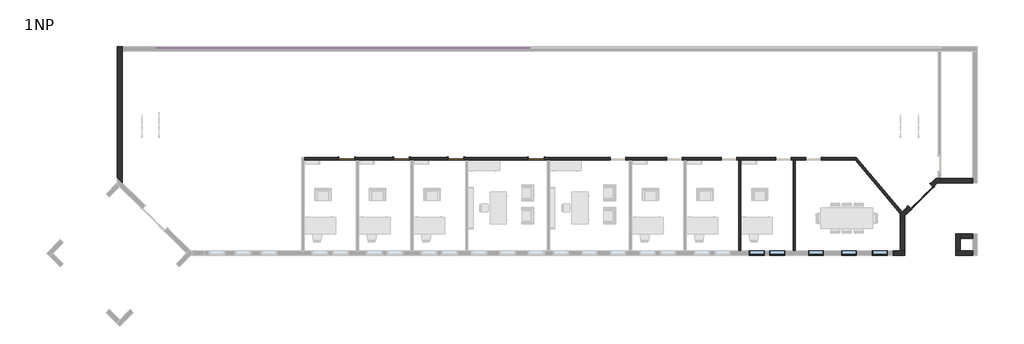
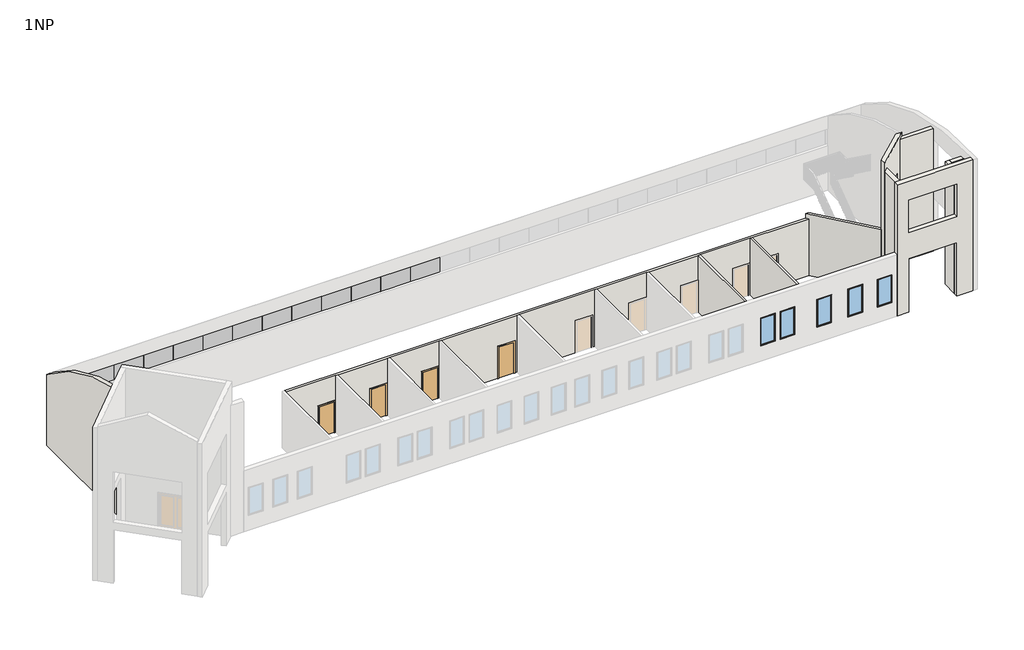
# One storey, part 2 of 3: 12 plates, 11 walls, 5 doors, 5 windows.
"""IFC4 building model written with IfcOpenShell, lengths in millimetres."""

from ifc_helpers import new_model, si_unit, frame, origin, origin_with_axes, place, context, project, spatial, polyline, circle_curve, ellipse_curve, outline, extrude, faceted_brep, transform, mapped, element, save
from ifc_brep_helpers import plane_surface, cylinder_surface, advanced_brep
from components import m_double_glass_1_1830_x_2134mm_3c2632e2, m_single_flush_0915_x_2032mm_1012e85d, system_panel_glazed_e7f7cd54, m_fixed_0915_x_1830mm_7ee91fd3

model = new_model("IFC4")

# Units and contexts
model_context = context("Model", 3, world=origin())
ifc_project = project(units=[si_unit("LENGTHUNIT", "METRE", prefix="MILLI")], contexts=[model_context])

# Site, building, storey
site = spatial("IfcSite", under=ifc_project)
building = spatial("IfcBuilding", under=site)
storey = spatial("IfcBuildingStorey", under=building, Name="1NP", Elevation=0.0)

# Doors
placement = place(None, origin())
m_double_glass_1_1830_x_2134mm_shape = m_double_glass_1_1830_x_2134mm_3c2632e2(model_context)
element("IfcDoor", 1, ObjectType="M_Double-Glass 1 : 1830 x 2134mm", at=placement, inside=storey, context=model_context, shape_type="MappedRepresentation", body=[
    mapped(m_double_glass_1_1830_x_2134mm_shape, transform((35397.5898577, -1433.3591998, 0.0), x_axis=(0.7071067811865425, 0.7071067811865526, 0.0), y_axis=(-0.7071067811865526, 0.7071067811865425, 0.0), z_axis=(0.0, 0.0, 1.0))),
])
m_single_flush_0915_x_2032mm_shape = m_single_flush_0915_x_2032mm_1012e85d(model_context)
element("IfcDoor", 2, ObjectType="M_Single-Flush : 0915 x 2032mm", at=placement, inside=storey, context=model_context, shape_type="MappedRepresentation", body=[
    mapped(m_single_flush_0915_x_2032mm_shape, transform((1762.4255273, 791.5551306, 0.0), x_axis=(1.0, 0.0, 0.0), y_axis=(0.0, 1.0, 0.0), z_axis=(0.0, 0.0, 1.0))),
])
element("IfcDoor", 3, ObjectType="M_Single-Flush : 0915 x 2032mm", at=placement, inside=storey, context=model_context, shape_type="MappedRepresentation", body=[
    mapped(m_single_flush_0915_x_2032mm_shape, transform((4962.4255273, 791.5551306, 0.0), x_axis=(1.0, 0.0, 0.0), y_axis=(0.0, 1.0, 0.0), z_axis=(0.0, 0.0, 1.0))),
])
element("IfcDoor", 4, ObjectType="M_Single-Flush : 0915 x 2032mm", at=placement, inside=storey, context=model_context, shape_type="MappedRepresentation", body=[
    mapped(m_single_flush_0915_x_2032mm_shape, transform((8162.4255273, 791.5551306, 0.0), x_axis=(1.0, 0.0, 0.0), y_axis=(0.0, 1.0, 0.0), z_axis=(0.0, 0.0, 1.0))),
])
element("IfcDoor", 5, ObjectType="M_Single-Flush : 0915 x 2032mm", at=placement, inside=storey, context=model_context, shape_type="MappedRepresentation", body=[
    mapped(m_single_flush_0915_x_2032mm_shape, transform((12862.4255273, 791.5551306, 0.0), x_axis=(1.0, 0.0, 0.0), y_axis=(0.0, 1.0, 0.0), z_axis=(0.0, 0.0, 1.0))),
])

# Plates
system_panel_glazed_shape = system_panel_glazed_e7f7cd54(model_context)
element("IfcPlate", 6, ObjectType="System Panel : Glazed", at=placement, inside=storey, context=model_context, shape_type="MappedRepresentation", body=[
    mapped(system_panel_glazed_shape, transform((-8495.8244727, 7241.5551306, 2916.2475184), x_axis=(1.0, 0.0, 0.0), y_axis=(0.0, 1.0, 0.0), z_axis=(0.0, 0.0, 1.0))),
])
element("IfcPlate", 7, ObjectType="System Panel : Glazed", at=placement, inside=storey, context=model_context, shape_type="MappedRepresentation", body=[
    mapped(system_panel_glazed_shape, transform((-6665.8244727, 7241.5551306, 2916.2475184), x_axis=(1.0, 0.0, 0.0), y_axis=(0.0, 1.0, 0.0), z_axis=(0.0, 0.0, 1.0))),
])
element("IfcPlate", 8, ObjectType="System Panel : Glazed", at=placement, inside=storey, context=model_context, shape_type="MappedRepresentation", body=[
    mapped(system_panel_glazed_shape, transform((-4835.8244727, 7241.5551306, 2916.2475184), x_axis=(1.0, 0.0, 0.0), y_axis=(0.0, 1.0, 0.0), z_axis=(0.0, 0.0, 1.0))),
])
element("IfcPlate", 9, ObjectType="System Panel : Glazed", at=placement, inside=storey, context=model_context, shape_type="MappedRepresentation", body=[
    mapped(system_panel_glazed_shape, transform((-3005.8244727, 7241.5551306, 2916.2475184), x_axis=(1.0, 0.0, 0.0), y_axis=(0.0, 1.0, 0.0), z_axis=(0.0, 0.0, 1.0))),
])
element("IfcPlate", 10, ObjectType="System Panel : Glazed", at=placement, inside=storey, context=model_context, shape_type="MappedRepresentation", body=[
    mapped(system_panel_glazed_shape, transform((-1175.8244727, 7241.5551306, 2916.2475184), x_axis=(1.0, 0.0, 0.0), y_axis=(0.0, 1.0, 0.0), z_axis=(0.0, 0.0, 1.0))),
])
element("IfcPlate", 11, ObjectType="System Panel : Glazed", at=placement, inside=storey, context=model_context, shape_type="MappedRepresentation", body=[
    mapped(system_panel_glazed_shape, transform((654.1755273, 7241.5551306, 2916.2475184), x_axis=(1.0, 0.0, 0.0), y_axis=(0.0, 1.0, 0.0), z_axis=(0.0, 0.0, 1.0))),
])
element("IfcPlate", 12, ObjectType="System Panel : Glazed", at=placement, inside=storey, context=model_context, shape_type="MappedRepresentation", body=[
    mapped(system_panel_glazed_shape, transform((2484.1755273, 7241.5551306, 2916.2475184), x_axis=(1.0, 0.0, 0.0), y_axis=(0.0, 1.0, 0.0), z_axis=(0.0, 0.0, 1.0))),
])
element("IfcPlate", 13, ObjectType="System Panel : Glazed", at=placement, inside=storey, context=model_context, shape_type="MappedRepresentation", body=[
    mapped(system_panel_glazed_shape, transform((4314.1755273, 7241.5551306, 2916.2475184), x_axis=(1.0, 0.0, 0.0), y_axis=(0.0, 1.0, 0.0), z_axis=(0.0, 0.0, 1.0))),
])
element("IfcPlate", 14, ObjectType="System Panel : Glazed", at=placement, inside=storey, context=model_context, shape_type="MappedRepresentation", body=[
    mapped(system_panel_glazed_shape, transform((6144.1755273, 7241.5551306, 2916.2475184), x_axis=(1.0, 0.0, 0.0), y_axis=(0.0, 1.0, 0.0), z_axis=(0.0, 0.0, 1.0))),
])
element("IfcPlate", 15, ObjectType="System Panel : Glazed", at=placement, inside=storey, context=model_context, shape_type="MappedRepresentation", body=[
    mapped(system_panel_glazed_shape, transform((7974.1755273, 7241.5551306, 2916.2475184), x_axis=(1.0, 0.0, 0.0), y_axis=(0.0, 1.0, 0.0), z_axis=(0.0, 0.0, 1.0))),
])
element("IfcPlate", 16, ObjectType="System Panel : Glazed", at=placement, inside=storey, context=model_context, shape_type="MappedRepresentation", body=[
    mapped(system_panel_glazed_shape, transform((9804.1755273, 7241.5551306, 2916.2475184), x_axis=(1.0, 0.0, 0.0), y_axis=(0.0, 1.0, 0.0), z_axis=(0.0, 0.0, 1.0))),
])
element("IfcPlate", 17, ObjectType="System Panel : Glazed", at=placement, inside=storey, context=model_context, shape_type="MappedRepresentation", body=[
    mapped(system_panel_glazed_shape, transform((11634.1755273, 7241.5551306, 2916.2475184), x_axis=(1.0, 0.0, 0.0), y_axis=(0.0, 1.0, 0.0), z_axis=(0.0, 0.0, 1.0))),
])

# Walls
element("IfcWall", 18, ObjectType="Exterior - EIFS on Mtl. Stud", at=placement, inside=storey, context=model_context, shape_type="AdvancedBrep", body=[
    advanced_brep(
    [(38455.6755273, -4624.9448694, 0.0), (37722.6755273, -4624.9448694, 0.0), (37455.6755273, -4624.9448694, 0.0), (37455.6755273, -4624.9448694, 3500.0), (34472.6755273, -4624.9448694, 3500.0), (34472.6755273, -4624.9448694, 0.0), (34205.6755273, -4624.9448694, 0.0), (33755.6755273, -4624.9448694, 0.0), (33755.6755273, -4624.9448694, 4000.0), (33755.6755273, -4624.9448694, 8000.0), (33755.6755273, -4624.9448694, 8556.4380679), (38455.6755273, -4624.9448694, 8556.4380679), (37455.6755273, -4624.9448694, 7300.0), (34472.6755273, -4624.9448694, 7300.0), (34472.6755273, -4624.9448694, 5200.0), (37455.6755273, -4624.9448694, 5200.0), (38455.6755273, -4891.9448694, 0.0), (38455.6755273, -4891.9448694, 8541.7849302), (33755.6755273, -4891.9448694, 8541.7849302), (33755.6755273, -4891.9448694, 8000.0), (33755.6755273, -4891.9448694, 4000.0), (33755.6755273, -4891.9448694, 0.0), (34472.6755273, -4891.9448694, 0.0), (34472.6755273, -4891.9448694, 3500.0), (37455.6755273, -4891.9448694, 3500.0), (37455.6755273, -4891.9448694, 0.0), (37455.6755273, -4891.9448694, 7300.0), (37455.6755273, -4891.9448694, 5200.0), (34472.6755273, -4891.9448694, 5200.0), (34472.6755273, -4891.9448694, 7300.0)],
    [
        (0, 1),
        (1, 2),
        (2, 3),
        (3, 4),
        (4, 5),
        (5, 6),
        (6, 7),
        (7, 8),
        (8, 9),
        (9, 10),
        (10, 11),
        (11, 0),
        (12, 13),
        (13, 14),
        (14, 15),
        (15, 12),
        (16, 17),
        (17, 18),
        (18, 19),
        (19, 20),
        (20, 21),
        (21, 22),
        (22, 23),
        (23, 24),
        (24, 25),
        (25, 16),
        (26, 27),
        (27, 28),
        (28, 29),
        (29, 26),
        (0, 16),
        (25, 2),
        (3, 24),
        (23, 4),
        (22, 5),
        (21, 7),
        (12, 26),
        (29, 13),
        (14, 28),
        (27, 15),
        (18, 10, circle_curve(frame((33755.6755273, -3782.5530793, -9232.9575956), z_axis=(-1.0, 0.0, 0.0), x_axis=(0.0, -1.0, 0.0)), 17809.3296337)),
        (11, 17, circle_curve(frame((38455.6755273, -3782.5530793, -9232.9575956), z_axis=(1.0, 0.0, 0.0), x_axis=(0.0, -1.0, 0.0)), 17809.3296337)),
    ],
    [
        plane_surface(frame((12455.6755273, -4624.9448694, 0.0), z_axis=(0.0, 1.0, 0.0), x_axis=(-1.0, 0.0, 0.0))),
        plane_surface(frame((12455.6755273, -4891.9448694, 0.0), z_axis=(0.0, -1.0, 0.0), x_axis=(1.0, 0.0, 0.0))),
        plane_surface(frame((38589.1755273, -4624.9448694, 0.0), z_axis=(0.0, 0.0, -1.0), x_axis=(0.0, -1.0, 0.0))),
        plane_surface(frame((37589.1755273, -4624.9448694, 3500.0), z_axis=(0.0, 0.0, -1.0), x_axis=(0.0, -1.0, 0.0))),
        plane_surface(frame((34472.6755273, -4624.9448694, 3500.0), z_axis=(1.0, 0.0, 0.0), x_axis=(0.0, -1.0, 0.0))),
        plane_surface(frame((34472.6755273, -4624.9448694, 0.0), z_axis=(0.0, 0.0, -1.0), x_axis=(0.0, -1.0, 0.0))),
        plane_surface(frame((37589.1755273, -4624.9448694, 7300.0), z_axis=(0.0, 0.0, -1.0), x_axis=(0.0, -1.0, 0.0))),
        plane_surface(frame((34339.1755273, -4624.9448694, 5200.0), z_axis=(0.0, 0.0, 1.0), x_axis=(0.0, -1.0, 0.0))),
        plane_surface(frame((33755.6755273, -4624.9448694, 0.0), z_axis=(-1.0, 0.0, 0.0), x_axis=(0.0, -1.0, 0.0))),
        plane_surface(frame((34472.6755273, -4758.4448694, 0.0), z_axis=(1.0, 0.0, 0.0), x_axis=(0.0, 1.0, 0.0))),
        plane_surface(frame((37455.6755273, -4758.4448694, 0.0), z_axis=(-1.0, 0.0, 0.0), x_axis=(0.0, -1.0, 0.0))),
        plane_surface(frame((38455.6755273, 5741.5551306, 0.0), z_axis=(1.0, 0.0, 0.0), x_axis=(0.0, -1.0, 0.0))),
        cylinder_surface(frame((39922.6755273, -3782.5530793, -9232.9575956), z_axis=(1.0, 0.0, 0.0), x_axis=(0.0, -1.0, 0.0)), 17809.3296337),
    ],
    [
        (0, [[1, 2, 3, 4, 5, 6, 7, 8, 9, 10, 11, 12], [13, 14, 15, 16]]),
        (1, [[17, 18, 19, 20, 21, 22, 23, 24, 25, 26], [27, 28, 29, 30]]),
        (2, [[-2, -1, 31, -26, 32]]),
        (3, [[-4, 33, -24, 34]]),
        (4, [[-5, -34, -23, 35]]),
        (5, [[-7, -6, -35, -22, 36]]),
        (6, [[-13, 37, -30, 38]]),
        (7, [[-15, 39, -28, 40]]),
        (8, [[-36, -21, -20, -19, 41, -10, -9, -8]]),
        (9, [[-14, -38, -29, -39]]),
        (10, [[-3, -32, -25, -33]]),
        (10, [[-16, -40, -27, -37]]),
        (11, [[-12, 42, -17, -31]]),
        (12, [[-11, -41, -18, -42]]),
    ],
),
])
element("IfcWall", 19, ObjectType="Exterior - EIFS on Mtl. Stud", at=placement, inside=storey, context=model_context, shape_type="AdvancedBrep", body=[
    advanced_brep(
    [(-11410.8244727, -601.928028, 0.0), (-11410.8244727, 7108.0551306, 0.0), (-11410.8244727, 7375.0551306, 0.0), (-11410.8244727, 7375.0551306, 4647.9646014), (-11410.8244727, 7108.0445023, 4858.4264309), (-11410.8244727, -601.928028, 8290.0514578), (-11677.8244727, -334.928028, 0.0), (-11677.8244727, -334.928028, 8239.4808006), (-11677.8244727, 7375.0551306, 4647.9646014), (-11677.8244727, 7375.0551306, 0.0)],
    [
        (0, 1),
        (1, 2),
        (2, 3),
        (3, 4, circle_curve(frame((-11410.8244727, -3782.5530793, -9232.9575956), z_axis=(1.0, 0.0, 0.0), x_axis=(0.0, -1.0, 0.0)), 17809.3296337)),
        (4, 5, circle_curve(frame((-11410.8244727, -3782.5530793, -9232.9575956), z_axis=(1.0, 0.0, 0.0), x_axis=(0.0, -1.0, 0.0)), 17809.3295625)),
        (5, 0),
        (6, 7),
        (7, 8, circle_curve(frame((-11677.8244727, -3782.5530793, -9232.9575956), z_axis=(-1.0, 0.0, 0.0), x_axis=(0.0, -1.0, 0.0)), 17809.3296337)),
        (8, 9),
        (9, 6),
        (0, 6),
        (9, 2),
        (8, 3),
        (5, 7, ellipse_curve(frame((-8230.1994214, -3782.5530793, -9232.9575956), z_axis=(-0.7071067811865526, -0.7071067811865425, 0.0), x_axis=(0.7071067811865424, -0.7071067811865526, 0.0)), 25186.1955048, 17809.3296337)),
    ],
    [
        plane_surface(frame((-11410.8244727, -6258.4448694, 0.0), z_axis=(1.0, 0.0, 0.0), x_axis=(0.0, 1.0, 0.0))),
        plane_surface(frame((-11677.8244727, -6258.4448694, 0.0), z_axis=(-1.0, 0.0, 0.0), x_axis=(0.0, -1.0, 0.0))),
        plane_surface(frame((-11410.8244727, -657.2255385, 0.0), z_axis=(0.0, 0.0, -1.0), x_axis=(-1.0, 0.0, 0.0))),
        plane_surface(frame((-5544.3244727, 7375.0551306, 0.0), z_axis=(0.0, 1.0, 0.0), x_axis=(-1.0, 0.0, 0.0))),
        plane_surface(frame((-12510.5858892, 497.8333885, 0.0), z_axis=(-0.7071067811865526, -0.7071067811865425, 0.0), x_axis=(-0.7071067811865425, 0.7071067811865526, 0.0))),
        cylinder_surface(frame((39922.6755273, -3782.5530793, -9232.9575956), z_axis=(1.0, 0.0, 0.0), x_axis=(0.0, -1.0, 0.0)), 17809.3296337),
    ],
    [
        (0, [[1, 2, 3, 4, 5, 6]]),
        (1, [[7, 8, 9, 10]]),
        (2, [[-2, -1, 11, -10, 12]]),
        (3, [[-3, -12, -9, 13]]),
        (4, [[-6, 14, -7, -11]]),
        (5, [[-5, -4, -13, -8, -14]]),
    ],
),
])
element("IfcWall", 20, ObjectType="Exterior - EIFS on Mtl. Stud", at=placement, inside=storey, context=model_context, shape_type="Brep", body=[
    faceted_brep([(37722.6755273, -4624.9448694, 8000.0), (37722.6755273, -4624.9448694, 0.0), (37722.6755273, -3891.9448694, 0.0), (37722.6755273, -3624.9448694, 0.0), (37722.6755273, -3624.9448694, 8000.0), (37722.6755273, -3891.9448694, 8000.0), (37455.6755273, -4624.9448694, 0.0), (37455.6755273, -4624.9448694, 3500.0), (37455.6755273, -4624.9448694, 5200.0), (37455.6755273, -4624.9448694, 7300.0), (37455.6755273, -4624.9448694, 8000.0), (37455.6755273, -3624.9448694, 8000.0), (37455.6755273, -3624.9448694, 0.0)], [[[0, 1, 2, 3, 4, 5]], [[6, 7, 8, 9, 10, 11, 12]], [[3, 2, 1, 6, 12]], [[0, 5, 4, 11, 10]], [[4, 3, 12, 11]], [[0, 10, 9, 8, 7, 6, 1]]]),
])
element("IfcWall", 21, ObjectType="Exterior - EIFS on Mtl. Stud", at=placement, inside=storey, context=model_context, shape_type="Brep", body=[
    faceted_brep([(37722.6755273, -3891.9448694, 0.0), (38455.6755273, -3891.9448694, 0.0), (38455.6755273, -3891.9448694, 8000.0), (37722.6755273, -3891.9448694, 8000.0), (37722.6755273, -3624.9448694, 0.0), (37722.6755273, -3624.9448694, 8000.0), (38455.6755273, -3624.9448694, 8000.0), (38455.6755273, -3624.9448694, 7300.0), (38455.6755273, -3624.9448694, 5200.0), (38455.6755273, -3624.9448694, 3500.0), (38455.6755273, -3624.9448694, 0.0)], [[[0, 1, 2, 3]], [[4, 5, 6, 7, 8, 9, 10]], [[1, 0, 4, 10]], [[3, 2, 6, 5]], [[0, 3, 5, 4]], [[1, 10, 9, 8, 7, 6, 2]]]),
])
element("IfcWall", 22, ObjectType="Exterior - EIFS on Mtl. Stud", at=placement, inside=storey, context=model_context, shape_type="AdvancedBrep", body=[
    advanced_brep(
    [(36270.5742736, -374.9448694, 0.0), (35951.8776052, -693.6415378, 0.0), (35951.8776052, -693.6415378, 2134.0), (34657.8721956, -1987.6469473, 2134.0), (34657.8721956, -1987.6469473, 0.0), (34302.1897841, -2343.3293589, 0.0), (34205.6755273, -2439.8436157, 0.0), (34205.6755273, -2439.8436157, 4000.0), (34205.6755273, -2439.8436157, 8000.0), (34205.6755273, -2439.8436157, 8525.6840557), (36270.5742736, -374.9448694, 8247.3292525), (35823.8290879, -821.6900551, 4000.0), (35823.8290879, -821.6900551, 6134.0), (34529.8236783, -2115.6954646, 6134.0), (34529.8236783, -2115.6954646, 4000.0), (36140.6751158, -882.4390484, 2134.0), (36140.6751158, -882.4390484, 0.0), (36381.1692947, -641.9448694, 0.0), (36648.1692947, -374.9448694, 0.0), (36648.1692947, -374.9448694, 8000.0), (36648.1692947, -374.9448694, 8247.3292525), (34205.6755273, -2817.4386368, 8550.2023068), (34205.6755273, -2817.4386368, 8000.0), (34205.6755273, -2817.4386368, 0.0), (34472.6755273, -2550.4386368, 0.0), (34846.6697062, -2176.4444579, 0.0), (34846.6697062, -2176.4444579, 2134.0), (36012.6265985, -1010.4875656, 4000.0), (34718.6211889, -2304.4929752, 4000.0), (34718.6211889, -2304.4929752, 6134.0), (36012.6265985, -1010.4875656, 6134.0), (36419.9255273, -374.9448694, 0.0), (36558.4255273, -374.9448694, 0.0), (34205.6755273, -2443.7758967, 0.0), (36419.9255273, -374.9448694, 8247.3292525), (36558.4255273, -374.9448694, 8247.3292525)],
    [
        (0, 1),
        (1, 2),
        (2, 3),
        (3, 4),
        (4, 5),
        (5, 6),
        (6, 7),
        (7, 8),
        (8, 9),
        (9, 10, ellipse_curve(frame((32862.9660637, -3782.5530793, -9232.9575956), z_axis=(-0.7071067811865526, 0.7071067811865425, 0.0), x_axis=(0.7071067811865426, 0.7071067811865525, 0.0)), 25186.1955048, 17809.3296337)),
        (10, 0),
        (11, 12),
        (12, 13),
        (13, 14),
        (14, 11),
        (15, 16),
        (16, 17),
        (17, 18),
        (18, 19),
        (19, 20),
        (20, 21, ellipse_curve(frame((33240.5610849, -3782.5530793, -9232.9575956), z_axis=(0.7071067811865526, -0.7071067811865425, 0.0), x_axis=(0.7071067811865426, 0.7071067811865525, 0.0)), 25186.1955048, 17809.3296337)),
        (21, 22),
        (22, 23),
        (23, 24),
        (24, 25),
        (25, 26),
        (26, 15),
        (27, 28),
        (28, 29),
        (29, 30),
        (30, 27),
        (16, 1),
        (0, 31),
        (31, 32),
        (32, 18),
        (23, 33),
        (33, 6),
        (4, 25),
        (10, 34),
        (34, 35),
        (35, 20),
        (21, 9, circle_curve(frame((34205.6755273, -3782.5530793, -9232.9575956), z_axis=(-1.0, 0.0, 0.0), x_axis=(0.0, -1.0, 0.0)), 17809.3296337)),
        (15, 2),
        (26, 3),
        (27, 11),
        (14, 28),
        (13, 29),
        (12, 30),
    ],
    [
        plane_surface(frame((38416.1447376, 1770.6255947, 0.0), z_axis=(-0.7071067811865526, 0.7071067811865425, 0.0), x_axis=(-0.7071067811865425, -0.7071067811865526, 0.0))),
        plane_surface(frame((38604.9422482, 1581.8280841, 0.0), z_axis=(0.7071067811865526, -0.7071067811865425, 0.0), x_axis=(0.7071067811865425, 0.7071067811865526, 0.0))),
        plane_surface(frame((36231.4730288, -414.0461141, 0.0), z_axis=(0.0, 0.0, -1.0), x_axis=(0.7071067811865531, -0.707106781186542, 0.0))),
        plane_surface(frame((38455.6755273, -374.9448694, 0.0), z_axis=(0.0, 1.0, 0.0), x_axis=(-1.0, 0.0, 0.0))),
        plane_surface(frame((34205.6755273, -4758.4448694, 0.0), z_axis=(-1.0, 0.0, 0.0), x_axis=(0.0, -1.0, 0.0))),
        cylinder_surface(frame((39922.6755273, -3782.5530793, -9232.9575956), z_axis=(1.0, 0.0, 0.0), x_axis=(0.0, -1.0, 0.0)), 17809.3296337),
        plane_surface(frame((35951.8776052, -693.6415378, 0.0), z_axis=(-0.7071067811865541, -0.7071067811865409, 0.0), x_axis=(0.7071067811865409, -0.7071067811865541, 0.0))),
        plane_surface(frame((35951.8776052, -693.6415378, 2134.0), z_axis=(0.0, 0.0, -1.0), x_axis=(0.7071067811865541, -0.7071067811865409, 0.0))),
        plane_surface(frame((34657.8721956, -1987.6469473, 2134.0), z_axis=(0.707106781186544, 0.7071067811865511, 0.0), x_axis=(0.7071067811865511, -0.707106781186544, 0.0))),
        plane_surface(frame((36012.6265985, -1010.4875656, 4000.0), z_axis=(0.0, 0.0, 1.0), x_axis=(-0.7071067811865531, 0.707106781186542, 0.0))),
        plane_surface(frame((34718.6211889, -2304.4929752, 4000.0), z_axis=(0.707106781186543, 0.7071067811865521, 0.0), x_axis=(-0.7071067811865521, 0.707106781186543, 0.0))),
        plane_surface(frame((34718.6211889, -2304.4929752, 6134.0), z_axis=(0.0, 0.0, -1.0000000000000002), x_axis=(-0.707106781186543, 0.7071067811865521, 0.0))),
        plane_surface(frame((36012.6265985, -1010.4875656, 6134.0), z_axis=(-0.707106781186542, -0.7071067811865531, 0.0), x_axis=(-0.7071067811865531, 0.707106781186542, 0.0))),
    ],
    [
        (0, [[1, 2, 3, 4, 5, 6, 7, 8, 9, 10, 11], [12, 13, 14, 15]]),
        (1, [[16, 17, 18, 19, 20, 21, 22, 23, 24, 25, 26, 27], [28, 29, 30, 31]]),
        (2, [[-18, -17, 32, -1, 33, 34, 35]]),
        (2, [[-25, -24, 36, 37, -6, -5, 38]]),
        (3, [[-11, 39, 40, 41, -20, -19, -35, -34, -33]]),
        (4, [[-37, -36, -23, -22, 42, -9, -8, -7]]),
        (5, [[-10, -42, -21, -41, -40, -39]]),
        (6, [[-2, -32, -16, 43]]),
        (7, [[-3, -43, -27, 44]]),
        (8, [[-4, -44, -26, -38]]),
        (9, [[-28, 45, -15, 46]]),
        (10, [[-29, -46, -14, 47]]),
        (11, [[-30, -47, -13, 48]]),
        (12, [[-31, -48, -12, -45]]),
    ],
),
])
element("IfcWall", 23, ObjectType="Exterior - EIFS on Mtl. Stud", at=placement, inside=storey, context=model_context, shape_type="Brep", body=[
    faceted_brep([(38455.6755273, -374.9448694, 8000.0), (38455.6755273, -374.9448694, 0.0), (36648.1692947, -374.9448694, 0.0), (36648.1692947, -374.9448694, 8000.0), (38455.6755273, -641.9448694, 0.0), (38455.6755273, -641.9448694, 3500.0), (38455.6755273, -641.9448694, 5200.0), (38455.6755273, -641.9448694, 7300.0), (38455.6755273, -641.9448694, 8000.0), (36381.1692947, -641.9448694, 8000.0), (36381.1692947, -641.9448694, 0.0)], [[[0, 1, 2, 3]], [[4, 5, 6, 7, 8, 9, 10]], [[2, 1, 4, 10]], [[0, 3, 9, 8]], [[3, 2, 10, 9]], [[0, 8, 7, 6, 5, 4, 1]]]),
])
element("IfcWall", 24, ObjectType="Exterior - EIFS on Mtl. Stud", at=placement, inside=storey, context=model_context, shape_type="Brep", body=[
    faceted_brep([(34472.6755273, -4624.9448694, 8000.0), (34472.6755273, -4624.9448694, 7300.0), (34472.6755273, -4624.9448694, 5200.0), (34472.6755273, -4624.9448694, 3500.0), (34472.6755273, -4624.9448694, 0.0), (34472.6755273, -2550.4386368, 0.0), (34472.6755273, -2550.4386368, 8000.0), (34205.6755273, -4624.9448694, 0.0), (34205.6755273, -4624.9448694, 8000.0), (34205.6755273, -2817.4386368, 8000.0), (34205.6755273, -2817.4386368, 0.0)], [[[0, 1, 2, 3, 4, 5, 6]], [[7, 8, 9, 10]], [[5, 4, 7, 10]], [[0, 6, 9, 8]], [[5, 10, 9, 6]], [[0, 8, 7, 4, 3, 2, 1]]]),
])
element("IfcWall", 25, ObjectType="Interior - 138mm Partition (1-hr)", at=placement, inside=storey, context=model_context, shape_type="SweptSolid", body=[
    extrude(outline(polyline([(28058.4255273, 722.3051306), (28058.4255273, -4624.9448694), (27919.9255273, -4624.9448694), (27919.9255273, 722.3051306), (28058.4255273, 722.3051306)])), origin_with_axes(), (0.0, 0.0, 1.0), 3700.0),
])
element("IfcWall", 26, ObjectType="Interior - 138mm Partition (1-hr)", at=placement, inside=storey, context=model_context, shape_type="Brep", body=[
    faceted_brep([(34302.1897841, -2343.3293589, 0.0), (31613.6017157, 860.8051306, 0.0), (31613.6017157, 860.8051306, 4000.0), (34302.1897841, -2343.3293589, 4000.0), (34205.6755273, -2443.7758967, 0.0), (34205.6755273, -2443.7758967, 4000.0), (31432.8028061, 860.8051306, 4000.0), (31432.8028061, 860.8051306, 3700.0), (31432.8028061, 860.8051306, 0.0), (31549.018105, 722.3051306, 0.0), (34205.6755273, -2439.8436157, 0.0), (34205.6755273, -2439.8436157, 4000.0)], [[[0, 1, 2, 3]], [[4, 5, 6, 7, 8, 9]], [[1, 0, 10, 4, 9, 8]], [[3, 2, 6, 5, 11]], [[2, 1, 8, 7, 6]], [[0, 3, 11, 10]], [[11, 5, 4, 10]]]),
])
element("IfcWall", 27, ObjectType="Interior - 138mm Partition (1-hr)", at=placement, inside=storey, context=model_context, shape_type="Brep", body=[
    faceted_brep([(20504.9255273, 860.8051306, 0.0), (18119.9255273, 860.8051306, 0.0), (18119.9255273, 860.8051306, 2032.0), (17204.9255273, 860.8051306, 2032.0), (17204.9255273, 860.8051306, 0.0), (13319.9255273, 860.8051306, 0.0), (13319.9255273, 860.8051306, 2032.0), (12404.9255273, 860.8051306, 2032.0), (12404.9255273, 860.8051306, 0.0), (8619.9255273, 860.8051306, 0.0), (8619.9255273, 860.8051306, 2032.0), (7704.9255273, 860.8051306, 2032.0), (7704.9255273, 860.8051306, 0.0), (5419.9255273, 860.8051306, 0.0), (5419.9255273, 860.8051306, 2032.0), (4504.9255273, 860.8051306, 2032.0), (4504.9255273, 860.8051306, 0.0), (2219.9255273, 860.8051306, 0.0), (2219.9255273, 860.8051306, 2032.0), (1304.9255273, 860.8051306, 2032.0), (1304.9255273, 860.8051306, 0.0), (-741.5744727, 860.8051306, 0.0), (-741.5744727, 860.8051306, 3700.0), (31432.8028061, 860.8051306, 3700.0), (31432.8028061, 860.8051306, 0.0), (29573.4255273, 860.8051306, 0.0), (29573.4255273, 860.8051306, 2032.0), (28658.4255273, 860.8051306, 2032.0), (28658.4255273, 860.8051306, 0.0), (27819.9255273, 860.8051306, 0.0), (27819.9255273, 860.8051306, 2032.0), (26904.9255273, 860.8051306, 2032.0), (26904.9255273, 860.8051306, 0.0), (24619.9255273, 860.8051306, 0.0), (24619.9255273, 860.8051306, 2032.0), (23704.9255273, 860.8051306, 2032.0), (23704.9255273, 860.8051306, 0.0), (21419.9255273, 860.8051306, 0.0), (21419.9255273, 860.8051306, 2032.0), (20504.9255273, 860.8051306, 2032.0), (18119.9255273, 722.3051306, 2032.0), (18119.9255273, 722.3051306, 0.0), (18319.9255273, 722.3051306, 0.0), (18458.4255273, 722.3051306, 0.0), (20504.9255273, 722.3051306, 0.0), (20504.9255273, 722.3051306, 2032.0), (21419.9255273, 722.3051306, 2032.0), (21419.9255273, 722.3051306, 0.0), (21519.9255273, 722.3051306, 0.0), (21658.4255273, 722.3051306, 0.0), (23704.9255273, 722.3051306, 0.0), (23704.9255273, 722.3051306, 2032.0), (24619.9255273, 722.3051306, 2032.0), (24619.9255273, 722.3051306, 0.0), (24719.9255273, 722.3051306, 0.0), (24858.4255273, 722.3051306, 0.0), (26904.9255273, 722.3051306, 0.0), (26904.9255273, 722.3051306, 2032.0), (27819.9255273, 722.3051306, 2032.0), (27819.9255273, 722.3051306, 0.0), (27919.9255273, 722.3051306, 0.0), (28058.4255273, 722.3051306, 0.0), (28658.4255273, 722.3051306, 0.0), (28658.4255273, 722.3051306, 2032.0), (29573.4255273, 722.3051306, 2032.0), (29573.4255273, 722.3051306, 0.0), (31549.018105, 722.3051306, 0.0), (31549.018105, 722.3051306, 3700.0), (28058.4255273, 722.3051306, 3700.0), (27919.9255273, 722.3051306, 3700.0), (24858.4255273, 722.3051306, 3700.0), (24719.9255273, 722.3051306, 3700.0), (21658.4255273, 722.3051306, 3700.0), (21519.9255273, 722.3051306, 3700.0), (18458.4255273, 722.3051306, 3700.0), (18319.9255273, 722.3051306, 3700.0), (13658.4255273, 722.3051306, 3700.0), (13519.9255273, 722.3051306, 3700.0), (8858.4255273, 722.3051306, 3700.0), (8719.9255273, 722.3051306, 3700.0), (5658.4255273, 722.3051306, 3700.0), (5519.9255273, 722.3051306, 3700.0), (2458.4255273, 722.3051306, 3700.0), (2319.9255273, 722.3051306, 3700.0), (-741.5744727, 722.3051306, 3700.0), (-741.5744727, 722.3051306, 0.0), (1304.9255273, 722.3051306, 0.0), (1304.9255273, 722.3051306, 2032.0), (2219.9255273, 722.3051306, 2032.0), (2219.9255273, 722.3051306, 0.0), (2319.9255273, 722.3051306, 0.0), (2458.4255273, 722.3051306, 0.0), (4504.9255273, 722.3051306, 0.0), (4504.9255273, 722.3051306, 2032.0), (5419.9255273, 722.3051306, 2032.0), (5419.9255273, 722.3051306, 0.0), (5519.9255273, 722.3051306, 0.0), (5658.4255273, 722.3051306, 0.0), (7704.9255273, 722.3051306, 0.0), (7704.9255273, 722.3051306, 2032.0), (8619.9255273, 722.3051306, 2032.0), (8619.9255273, 722.3051306, 0.0), (8719.9255273, 722.3051306, 0.0), (8858.4255273, 722.3051306, 0.0), (12404.9255273, 722.3051306, 0.0), (12404.9255273, 722.3051306, 2032.0), (13319.9255273, 722.3051306, 2032.0), (13319.9255273, 722.3051306, 0.0), (13519.9255273, 722.3051306, 0.0), (13658.4255273, 722.3051306, 0.0), (17204.9255273, 722.3051306, 0.0), (17204.9255273, 722.3051306, 2032.0)], [[[0, 1, 2, 3, 4, 5, 6, 7, 8, 9, 10, 11, 12, 13, 14, 15, 16, 17, 18, 19, 20, 21, 22, 23, 24, 25, 26, 27, 28, 29, 30, 31, 32, 33, 34, 35, 36, 37, 38, 39]], [[40, 41, 42, 43, 44, 45, 46, 47, 48, 49, 50, 51, 52, 53, 54, 55, 56, 57, 58, 59, 60, 61, 62, 63, 64, 65, 66, 67, 68, 69, 70, 71, 72, 73, 74, 75, 76, 77, 78, 79, 80, 81, 82, 83, 84, 85, 86, 87, 88, 89, 90, 91, 92, 93, 94, 95, 96, 97, 98, 99, 100, 101, 102, 103, 104, 105, 106, 107, 108, 109, 110, 111]], [[62, 61, 60, 59, 29, 28]], [[25, 24, 66, 65]], [[86, 85, 21, 20]], [[92, 91, 90, 89, 17, 16]], [[98, 97, 96, 95, 13, 12]], [[50, 49, 48, 47, 37, 36]], [[56, 55, 54, 53, 33, 32]], [[104, 103, 102, 101, 9, 8]], [[44, 43, 42, 41, 1, 0]], [[110, 109, 108, 107, 5, 4]], [[23, 22, 84, 83, 82, 81, 80, 79, 78, 77, 76, 75, 74, 73, 72, 71, 70, 69, 68, 67]], [[24, 23, 67, 66]], [[22, 21, 85, 84]], [[63, 62, 28, 27]], [[64, 63, 27, 26]], [[65, 64, 26, 25]], [[18, 17, 89, 88]], [[19, 18, 88, 87]], [[20, 19, 87, 86]], [[14, 13, 95, 94]], [[15, 14, 94, 93]], [[16, 15, 93, 92]], [[10, 9, 101, 100]], [[11, 10, 100, 99]], [[12, 11, 99, 98]], [[34, 33, 53, 52]], [[35, 34, 52, 51]], [[36, 35, 51, 50]], [[30, 29, 59, 58]], [[31, 30, 58, 57]], [[32, 31, 57, 56]], [[6, 5, 107, 106]], [[7, 6, 106, 105]], [[8, 7, 105, 104]], [[38, 37, 47, 46]], [[39, 38, 46, 45]], [[0, 39, 45, 44]], [[2, 1, 41, 40]], [[3, 2, 40, 111]], [[4, 3, 111, 110]]]),
])
element("IfcWall", 28, ObjectType="Interior - 138mm Partition (1-hr)", at=placement, inside=storey, context=model_context, shape_type="SweptSolid", body=[
    extrude(outline(polyline([(24858.4255273, 722.3051306), (24858.4255273, -4624.9448694), (24719.9255273, -4624.9448694), (24719.9255273, 722.3051306), (24858.4255273, 722.3051306)])), origin_with_axes(), (0.0, 0.0, 1.0), 3700.0),
])

# Windows
m_fixed_0915_x_1830mm_shape = m_fixed_0915_x_1830mm_7ee91fd3(model_context)
element("IfcWindow", 29, ObjectType="M_Fixed : 0915 x 1830mm", at=placement, inside=storey, context=model_context, shape_type="MappedRepresentation", body=[
    mapped(m_fixed_0915_x_1830mm_shape, transform((32998.1755273, -4745.4448694, 665.0), x_axis=(-1.0, 0.0, 0.0), y_axis=(0.0, -1.0, 0.0), z_axis=(0.0, 0.0, 1.0))),
])
element("IfcWindow", 30, ObjectType="M_Fixed : 0915 x 1830mm", at=placement, inside=storey, context=model_context, shape_type="MappedRepresentation", body=[
    mapped(m_fixed_0915_x_1830mm_shape, transform((31183.1755273, -4745.4448694, 665.0), x_axis=(-1.0, 0.0, 0.0), y_axis=(0.0, -1.0, 0.0), z_axis=(0.0, 0.0, 1.0))),
])
element("IfcWindow", 31, ObjectType="M_Fixed : 0915 x 1830mm", at=placement, inside=storey, context=model_context, shape_type="MappedRepresentation", body=[
    mapped(m_fixed_0915_x_1830mm_shape, transform((29268.1755273, -4745.4448694, 665.0), x_axis=(-1.0, 0.0, 0.0), y_axis=(0.0, -1.0, 0.0), z_axis=(0.0, 0.0, 1.0))),
])
element("IfcWindow", 32, ObjectType="M_Fixed : 0915 x 1830mm", at=placement, inside=storey, context=model_context, shape_type="MappedRepresentation", body=[
    mapped(m_fixed_0915_x_1830mm_shape, transform((25789.1755273, -4745.4448694, 665.0), x_axis=(-1.0, 0.0, 0.0), y_axis=(0.0, -1.0, 0.0), z_axis=(0.0, 0.0, 1.0))),
])
element("IfcWindow", 33, ObjectType="M_Fixed : 0915 x 1830mm", at=placement, inside=storey, context=model_context, shape_type="MappedRepresentation", body=[
    mapped(m_fixed_0915_x_1830mm_shape, transform((26989.1755273, -4745.4448694, 665.0), x_axis=(-1.0, 0.0, 0.0), y_axis=(0.0, -1.0, 0.0), z_axis=(0.0, 0.0, 1.0))),
])

save(model, "model.ifc")
